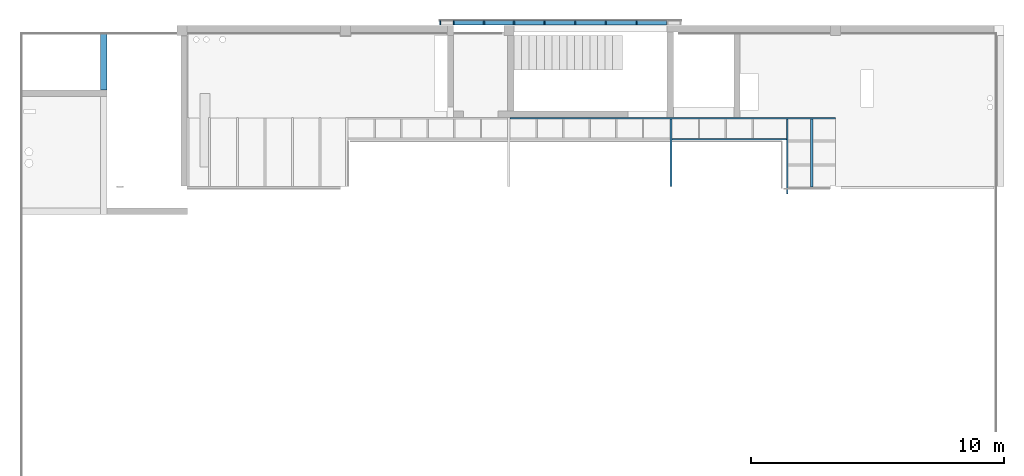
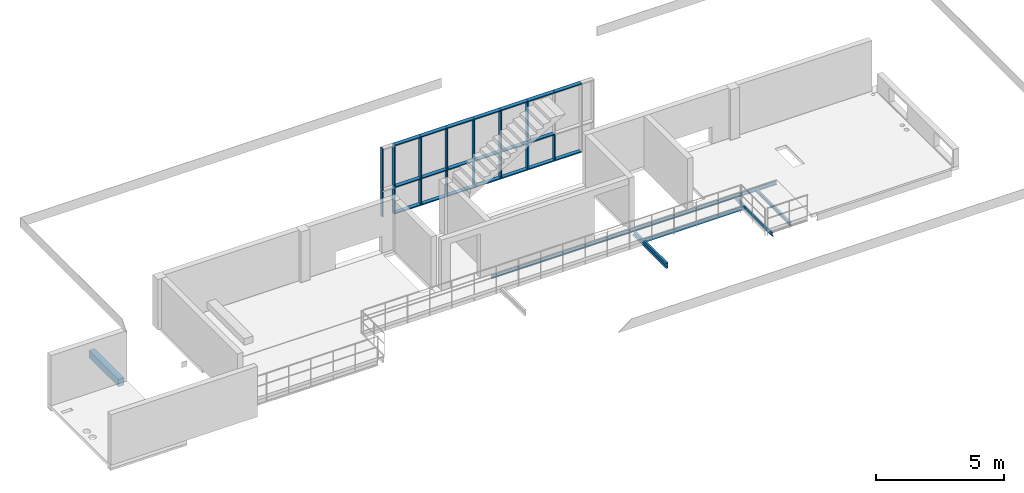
# One storey, part 2 of 8: 35 members, 6 beams, 1 element without a shape of its own.
"""IFC2X3 building model written with IfcOpenShell, lengths in centimetres."""

from ifc_helpers import new_model, entity, si_unit, converted_unit, derived_unit, direction, frame, frame_2d, origin, origin_2d_with_axis, place, context, subcontext, project, spatial, polyline, circle_curve, parameter, trimmed, segment, composite_curve, rectangle, i_section, outline, extrude, source, transform, mapped, material, type_object, type_shapes, element, aggregate, save


model = new_model("IFC2X3")

# Units and contexts
model_context = context("Model", 3, precision=0.001, world=origin(), true_north=direction((6.12303176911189e-17, 1.0)))
body_context = subcontext(model_context, "Body", "Model", "MODEL_VIEW")
ifc_project = project(units=[si_unit("LENGTHUNIT", "METRE", prefix="CENTI"), si_unit("AREAUNIT", "SQUARE_METRE"), si_unit("VOLUMEUNIT", "CUBIC_METRE"), converted_unit("PLANEANGLEUNIT", "DEGREE", entity("IfcRatioMeasure", 0.0174532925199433), si_unit("PLANEANGLEUNIT", "RADIAN"), dimensions=[0, 0, 0, 0, 0, 0, 0]), si_unit("MASSUNIT", "GRAM", prefix="KILO"), derived_unit("MASSDENSITYUNIT", [(si_unit("MASSUNIT", "GRAM", prefix="KILO"), 1), (si_unit("LENGTHUNIT", "METRE"), -3)]), derived_unit("MOMENTOFINERTIAUNIT", [(si_unit("LENGTHUNIT", "METRE"), 4)]), si_unit("TIMEUNIT", "SECOND"), si_unit("FREQUENCYUNIT", "HERTZ"), si_unit("THERMODYNAMICTEMPERATUREUNIT", "DEGREE_CELSIUS"), derived_unit("THERMALTRANSMITTANCEUNIT", [(si_unit("MASSUNIT", "GRAM", prefix="KILO"), 1), (si_unit("THERMODYNAMICTEMPERATUREUNIT", "KELVIN"), -1), (si_unit("TIMEUNIT", "SECOND"), -3)]), derived_unit("VOLUMETRICFLOWRATEUNIT", [(si_unit("LENGTHUNIT", "METRE"), 3), (si_unit("TIMEUNIT", "SECOND"), -1)]), si_unit("ELECTRICCURRENTUNIT", "AMPERE"), si_unit("ELECTRICVOLTAGEUNIT", "VOLT"), si_unit("POWERUNIT", "WATT"), si_unit("FORCEUNIT", "NEWTON", prefix="KILO"), si_unit("ILLUMINANCEUNIT", "LUX"), si_unit("LUMINOUSFLUXUNIT", "LUMEN"), si_unit("LUMINOUSINTENSITYUNIT", "CANDELA"), derived_unit("USERDEFINED", [(si_unit("MASSUNIT", "GRAM", prefix="KILO"), -1), (si_unit("LENGTHUNIT", "METRE"), -2), (si_unit("TIMEUNIT", "SECOND"), 3), (si_unit("LUMINOUSFLUXUNIT", "LUMEN"), 1)]), derived_unit("LINEARVELOCITYUNIT", [(si_unit("LENGTHUNIT", "METRE"), 1), (si_unit("TIMEUNIT", "SECOND"), -1)]), si_unit("PRESSUREUNIT", "PASCAL"), derived_unit("USERDEFINED", [(si_unit("LENGTHUNIT", "METRE"), -2), (si_unit("MASSUNIT", "GRAM", prefix="KILO"), 1), (si_unit("TIMEUNIT", "SECOND"), -2)]), derived_unit("LINEARFORCEUNIT", [(si_unit("MASSUNIT", "GRAM", prefix="KILO"), 1), (si_unit("LENGTHUNIT", "METRE"), 1), (si_unit("TIMEUNIT", "SECOND"), -2), (si_unit("LENGTHUNIT", "METRE"), -1)]), derived_unit("PLANARFORCEUNIT", [(si_unit("MASSUNIT", "GRAM", prefix="KILO"), 1), (si_unit("LENGTHUNIT", "METRE"), 1), (si_unit("TIMEUNIT", "SECOND"), -2), (si_unit("LENGTHUNIT", "METRE"), -2)])], contexts=[model_context])

# Site, building, storey
site_placement = place(None, origin())
site = spatial("IfcSite", under=ifc_project, at=site_placement, Name="Default", CompositionType="ELEMENT")
building_placement = place(site_placement, origin())
building = spatial("IfcBuilding", under=site, at=building_placement, CompositionType="ELEMENT")
storey_placement = place(building_placement, frame((0.0, 0.0, 290.0)))
storey = spatial("IfcBuildingStorey", under=building, at=storey_placement, Name="Poziom Antresola +2,90", CompositionType="ELEMENT", Elevation=290.0)

# Beams
ifc_material_1 = material(Name="_Beton C30/37")
beam_type_1 = type_object("IfcBeamType", Name="Beton-belka prostokątna:BELKA ŻELBETOWA 35x25", PredefinedType="NOTDEFINED")
beam_1_placement = place(storey_placement, frame((-2578.26511650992, 2092.62745206, -35.0), z_axis=(0.0, 0.0, 1.0), x_axis=(0.0, -1.0, 0.0)))
element("IfcBeam", 1, at=beam_1_placement, inside=storey, type_object=beam_type_1, material=ifc_material_1, Name="Beton-belka prostokątna:BELKA ŻELBETOWA 35x25", ObjectType="Beton-belka prostokątna:BELKA ŻELBETOWA 35x25", context=body_context, shape_type="SweptSolid", body=[
    extrude(rectangle(XDim=35.0, YDim=25.0000000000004, at=frame_2d((2.66453525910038e-14, 0.0), x_axis=(1.0, 0.0))), frame((12.4999999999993, 0.0, 17.4999999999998), z_axis=(1.0, 0.0, 0.0), x_axis=(0.0, 0.0, -1.0)), (0.0, 0.0, 1.0), 229.955921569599),
])
ifc_material_2 = material(Name="Stal konstrukcyjna - S235")
beam_type_2 = type_object("IfcBeamType", Name="C:C260", PredefinedType="NOTDEFINED")
beam_2_placement = place(storey_placement, frame((-336.625137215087, 1731.22770011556, 0.0), z_axis=(0.0, 0.0, 1.0), x_axis=(0.0, -1.0, 0.0)))
element("IfcBeam", 2, at=beam_2_placement, inside=storey, type_object=beam_type_2, material=ifc_material_2, Name="C:C260", ObjectType="C:C260", context=body_context, shape_type="SweptSolid", body=[
    extrude(outline(composite_curve([segment(polyline([(12.6059708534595, -4.05929565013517), (13.0, -4.05929565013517)]), True, "CONTINUOUS"), segment(polyline([(13.0, -4.05929565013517), (13.0, 4.94070434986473)]), True, "CONTINUOUS"), segment(polyline([(13.0, 4.94070434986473), (-13.0, 4.94070434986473)]), True, "CONTINUOUS"), segment(polyline([(-13.0, 4.94070434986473), (-13.0, -4.05929565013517)]), True, "CONTINUOUS"), segment(polyline([(-13.0, -4.05929565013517), (-12.6059708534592, -4.05929565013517)]), True, "CONTINUOUS"), segment(trimmed(circle_curve(frame_2d((-12.6059708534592, -3.35929565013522), x_axis=(0.0, -1.0)), 0.699999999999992), [parameter(0.0)], [parameter(85.4300000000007)], True, "PARAMETER"), True, "CONTINUOUS"), segment(polyline([(-11.9081963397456, -3.41506955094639), (-11.4232284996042, 2.6522521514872)]), True, "CONTINUOUS"), segment(trimmed(circle_curve(frame_2d((-10.027679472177, 2.54070434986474), x_axis=(-0.996820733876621, 0.0796770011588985)), 1.39999999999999), [parameter(274.569999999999)], [parameter(0.0)], True, "PARAMETER"), False, "CONTINUOUS"), segment(polyline([(-10.027679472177, 3.94070434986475), (10.0276794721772, 3.94070434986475)]), True, "CONTINUOUS"), segment(trimmed(circle_curve(frame_2d((10.0276794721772, 2.54070434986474), x_axis=(0.0, 1.0)), 1.39999999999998), [parameter(274.569999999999)], [parameter(0.0)], True, "PARAMETER"), False, "CONTINUOUS"), segment(polyline([(11.4232284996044, 2.6522521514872), (11.9081963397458, -3.41506955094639)]), True, "CONTINUOUS"), segment(trimmed(circle_curve(frame_2d((12.6059708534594, -3.35929565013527), x_axis=(-0.996820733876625, -0.0796770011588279)), 0.69999999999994), [parameter(0.0)], [parameter(85.4300000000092)], True, "PARAMETER"), True, "CONTINUOUS")], self_intersect=False)), frame((-5.39975219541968, -2.58070434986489, -16.0), z_axis=(1.0, 0.0, 0.0), x_axis=(0.0, 0.0, -1.0)), (0.0, 0.0, 1.0), 266.500000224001),
])
beam_type_3 = type_object("IfcBeamType", Name="C:C160", PredefinedType="NOTDEFINED")
beam_3_placement = place(storey_placement, frame((-969.718663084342, 1741.28745231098, 0.0)))
element("IfcBeam", 3, at=beam_3_placement, inside=storey, type_object=beam_type_3, material=ifc_material_2, Name="C:C160", ObjectType="C:C160", context=body_context, shape_type="SweptSolid", body=[
    extrude(outline(composite_curve([segment(polyline([(7.71756820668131, -2.92330641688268), (8.0, -2.92330641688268)]), True, "CONTINUOUS"), segment(polyline([(8.0, -2.92330641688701), (8.0, 3.57669358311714)]), True, "CONTINUOUS"), segment(polyline([(8.0, 3.57669358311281), (-8.0, 3.57669358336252)]), True, "CONTINUOUS"), segment(polyline([(-8.0, 3.57669358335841), (-8.0, -2.9233064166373)]), True, "CONTINUOUS"), segment(polyline([(-8.0, -2.92330641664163), (-7.71756820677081, -2.92330641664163)]), True, "CONTINUOUS"), segment(trimmed(circle_curve(frame_2d((-7.71756820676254, -2.37330641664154), x_axis=(0.0, -1.0)), 0.550000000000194), [parameter(0.0)], [parameter(85.4299999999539)], True, "PARAMETER"), True, "CONTINUOUS"), segment(polyline([(-7.16931680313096, -2.41712876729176), (-6.82741276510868, 1.86035443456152)]), True, "CONTINUOUS"), segment(trimmed(circle_curve(frame_2d((-5.7807509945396, 1.77669358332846), x_axis=(-0.996820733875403, 0.079677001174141)), 1.04999999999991), [parameter(274.569999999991)], [parameter(0.0)], True, "PARAMETER"), False, "CONTINUOUS"), segment(polyline([(-5.78075099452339, 2.82669358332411), (5.7807509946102, 2.82669358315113)]), True, "CONTINUOUS"), segment(trimmed(circle_curve(frame_2d((5.78075099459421, 1.77669358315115), x_axis=(0.0, 1.0)), 1.04999999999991), [parameter(274.569999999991)], [parameter(0.0)], True, "PARAMETER"), False, "CONTINUOUS"), segment(polyline([(6.82741276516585, 1.86035443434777), (7.16931680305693, -2.41712876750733)]), True, "CONTINUOUS"), segment(trimmed(circle_curve(frame_2d((7.7175682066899, -2.37330641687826), x_axis=(-0.996820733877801, -0.0796770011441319)), 0.550000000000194), [parameter(0.0)], [parameter(85.4299999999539)], True, "PARAMETER"), True, "CONTINUOUS")], self_intersect=False)), frame((-5.04644353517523, -1.73669358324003, -11.0), z_axis=(1.0, 0.0, 0.0), x_axis=(0.0, 0.0, -1.0)), (0.0, 0.0, 1.0), 1285.49999762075),
])
beam_4_placement = place(storey_placement, frame((90.7348789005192, 1654.96745293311, 0.0), z_axis=(0.0, 0.0, 1.0), x_axis=(-1.0, 0.0, 0.0)))
element("IfcBeam", 4, at=beam_4_placement, inside=storey, type_object=beam_type_3, material=ifc_material_2, Name="C:C160", ObjectType="C:C160", context=body_context, shape_type="SweptSolid", body=[
    extrude(outline(composite_curve([segment(polyline([(7.71756820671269, -2.92330641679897), (8.0, -2.92330641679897)]), True, "CONTINUOUS"), segment(polyline([(8.0, -2.92330641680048), (8.0, 3.57669358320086)]), True, "CONTINUOUS"), segment(polyline([(8.0, 3.57669358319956), (-8.0, 3.57669358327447)]), True, "CONTINUOUS"), segment(polyline([(-8.0, 3.57669358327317), (-8.0, -2.92330641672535)]), True, "CONTINUOUS"), segment(polyline([(-8.0, -2.92330641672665), (-7.71756820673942, -2.92330641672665)]), True, "CONTINUOUS"), segment(trimmed(circle_curve(frame_2d((-7.71756820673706, -2.37330641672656), x_axis=(0.0, -1.0)), 0.550000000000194), [parameter(0.0)], [parameter(85.4299999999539)], True, "PARAMETER"), True, "CONTINUOUS"), segment(polyline([(-7.16931680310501, -2.41712876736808), (-6.82741276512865, 1.86035443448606)]), True, "CONTINUOUS"), segment(trimmed(circle_curve(frame_2d((-5.78075099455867, 1.77669358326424), x_axis=(-0.996820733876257, 0.0796770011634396)), 1.04999999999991), [parameter(274.569999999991)], [parameter(0.0)], True, "PARAMETER"), False, "CONTINUOUS"), segment(polyline([(-5.78075099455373, 2.82669358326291), (5.78075099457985, 2.82669358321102)]), True, "CONTINUOUS"), segment(trimmed(circle_curve(frame_2d((5.78075099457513, 1.77669358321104), x_axis=(0.0, 1.0)), 1.04999999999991), [parameter(274.569999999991)], [parameter(0.0)], True, "PARAMETER"), False, "CONTINUOUS"), segment(polyline([(6.82741276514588, 1.86035443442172), (7.16931680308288, -2.41712876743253)]), True, "CONTINUOUS"), segment(trimmed(circle_curve(frame_2d((7.71756820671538, -2.37330641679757), x_axis=(-0.996820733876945, -0.0796770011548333)), 0.550000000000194), [parameter(0.0)], [parameter(85.4299999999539)], True, "PARAMETER"), True, "CONTINUOUS")], self_intersect=False)), frame((-26.0000160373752, -1.73669358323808, -11.0), z_axis=(1.0, 0.0, 0.0), x_axis=(0.0, 0.0, -1.0)), (0.0, 0.0, 1.0), 451.000024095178),
])
beam_5_placement = place(storey_placement, frame((118.574894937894, 1450.12745207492, 0.0), z_axis=(0.0, 0.0, 1.0), x_axis=(0.0, 1.0, 0.0)))
element("IfcBeam", 5, at=beam_5_placement, inside=storey, type_object=beam_type_3, material=ifc_material_2, Name="C:C160", ObjectType="C:C160", context=body_context, shape_type="SweptSolid", body=[
    extrude(outline(composite_curve([segment(polyline([(7.71756820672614, -2.92330641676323), (8.0, -2.92330641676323)]), True, "CONTINUOUS"), segment(polyline([(8.0, -2.9233064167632), (8.0, 3.57669358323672)]), True, "CONTINUOUS"), segment(polyline([(8.0, 3.57669358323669), (-8.0, 3.5766935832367)]), True, "CONTINUOUS"), segment(polyline([(-8.0, 3.57669358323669), (-8.0, -2.92330641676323)]), True, "CONTINUOUS"), segment(polyline([(-8.0, -2.92330641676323), (-7.71756820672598, -2.92330641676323)]), True, "CONTINUOUS"), segment(trimmed(circle_curve(frame_2d((-7.71756820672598, -2.37330641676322), x_axis=(0.0, -1.0)), 0.549999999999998), [parameter(0.0)], [parameter(85.4300000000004)], True, "PARAMETER"), True, "CONTINUOUS"), segment(polyline([(-7.16931680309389, -2.41712876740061), (-6.82741276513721, 1.86035443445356)]), True, "CONTINUOUS"), segment(trimmed(circle_curve(frame_2d((-5.78075099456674, 1.77669358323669), x_axis=(-0.99682073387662, 0.0796770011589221)), 1.05000000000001), [parameter(274.570000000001)], [parameter(0.0)], True, "PARAMETER"), False, "CONTINUOUS"), segment(polyline([(-5.78075099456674, 2.82669358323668), (5.78075099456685, 2.8266935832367)]), True, "CONTINUOUS"), segment(trimmed(circle_curve(frame_2d((5.78075099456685, 1.77669358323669), x_axis=(0.0, 1.0)), 1.05000000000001), [parameter(274.570000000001)], [parameter(0.0)], True, "PARAMETER"), False, "CONTINUOUS"), segment(polyline([(6.82741276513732, 1.86035443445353), (7.169316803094, -2.41712876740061)]), True, "CONTINUOUS"), segment(trimmed(circle_curve(frame_2d((7.71756820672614, -2.37330641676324), x_axis=(-0.996820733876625, -0.0796770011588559)), 0.549999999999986), [parameter(0.0)], [parameter(85.4300000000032)], True, "PARAMETER"), True, "CONTINUOUS")], self_intersect=False)), frame((-10.0099998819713, -1.73669358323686, -11.0), z_axis=(1.0, 0.0, 0.0), x_axis=(0.0, 0.0, -1.0)), (0.0, 0.0, 1.0), 296.51),
])
beam_type_4 = type_object("IfcBeamType", Name="IPE:IPE160", PredefinedType="NOTDEFINED")
beam_6_placement = place(storey_placement, frame((216.734886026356, 1411.28745211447, 0.0), z_axis=(0.0, 0.0, 1.0), x_axis=(0.0, 1.0, 0.0)))
element("IfcBeam", 6, at=beam_6_placement, inside=storey, type_object=beam_type_4, material=ifc_material_2, Name="IPE:IPE160", ObjectType="IPE:IPE160", context=body_context, shape_type="SweptSolid", body=[
    extrude(i_section(OverallWidth=8.2, OverallDepth=16.0, WebThickness=0.499999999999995, FlangeThickness=0.740000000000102, FilletRadius=0.900000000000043, at=frame_2d((8.12683254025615e-14, -5.41788836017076e-14), x_axis=(0.0, 1.0))), frame((55.8400000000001, 0.0, -11.0), z_axis=(1.0, 0.0, 0.0), x_axis=(0.0, 0.0, -1.0)), (0.0, 0.0, 1.0), 268.589999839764),
])

# Curtain wall, members
curtain_wall_type = type_object("IfcCurtainWallType", Name="Ściana osłonowa:SO2", PredefinedType="NOTDEFINED")
curtain_wall_placement = place(storey_placement, frame((0.0, 0.0, -290.0)))
curtain_wall = element("IfcCurtainWall", 7, at=curtain_wall_placement, inside=storey, type_object=curtain_wall_type, Name="Ściana osłonowa:SO2", ObjectType="Ściana osłonowa:SO2")
ifc_material_3 = material(Name="Aluminium")
member_type_1 = type_object("IfcMemberType", Name="Prostokątny szpros:50 x 175mm", PredefinedType="MULLION", material=ifc_material_3)
shared_shape_1 = source(origin(), body_context, "Body", "SweptSolid", [
    extrude(rectangle(XDim=17.5, YDim=5.0, at=origin_2d_with_axis()), frame((-2.5, 0.0, -198.500011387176), z_axis=(0.0, 0.0, 1.0), x_axis=(0.0, -1.0, 0.0)), (0.0, 0.0, 1.0), 198.500011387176),
])
type_shapes(member_type_1, [shared_shape_1])
member_1_placement = place(curtain_wall_placement, frame((-1252.7651152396, 2116.37745208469, 761.0), z_axis=(0.0, 0.0, 1.0), x_axis=(-1.0, 0.0, 0.0)))
member_1 = element("IfcMember", 8, at=member_1_placement, type_object=member_type_1, Name="Prostokątny szpros:50 x 175mm", ObjectType="Prostokątny szpros:50 x 175mm", context=body_context, shape_type="MappedRepresentation", body=[
    mapped(shared_shape_1, transform((0.0, 0.0, 0.0), scale=1.0)),
])
member_type_2 = type_object("IfcMemberType", Name="Prostokątny szpros:50 x 175mm", PredefinedType="MULLION", material=ifc_material_3)
shared_shape_2 = source(origin(), body_context, "Body", "SweptSolid", [
    extrude(rectangle(XDim=17.5, YDim=5.0, at=origin_2d_with_axis()), frame((-2.5, 0.0, -121.0), z_axis=(0.0, 0.0, 1.0), x_axis=(0.0, -1.0, 0.0)), (0.0, 0.0, 1.0), 121.0),
])
type_shapes(member_type_2, [shared_shape_2])
member_2_placement = place(curtain_wall_placement, frame((-354.265132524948, 2116.37745208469, 761.0), z_axis=(1.0, 0.0, 0.0), x_axis=(0.0, 0.0, 1.0)))
member_2 = element("IfcMember", 9, at=member_2_placement, type_object=member_type_2, Name="Prostokątny szpros:50 x 175mm", ObjectType="Prostokątny szpros:50 x 175mm", context=body_context, shape_type="MappedRepresentation", body=[
    mapped(shared_shape_2, transform((0.0, 0.0, 0.0), scale=1.0)),
])
member_3_placement = place(curtain_wall_placement, frame((-475.265132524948, 2116.37745208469, 761.0), z_axis=(1.0, 0.0, 0.0), x_axis=(0.0, 0.0, 1.0)))
member_3 = element("IfcMember", 10, at=member_3_placement, type_object=member_type_2, Name="Prostokątny szpros:50 x 175mm", ObjectType="Prostokątny szpros:50 x 175mm", context=body_context, shape_type="MappedRepresentation", body=[
    mapped(shared_shape_2, transform((0.0, 0.0, 0.0), scale=1.0)),
])
member_4_placement = place(curtain_wall_placement, frame((-596.265132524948, 2116.37745208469, 761.0), z_axis=(1.0, 0.0, 0.0), x_axis=(0.0, 0.0, 1.0)))
member_4 = element("IfcMember", 11, at=member_4_placement, type_object=member_type_2, Name="Prostokątny szpros:50 x 175mm", ObjectType="Prostokątny szpros:50 x 175mm", context=body_context, shape_type="MappedRepresentation", body=[
    mapped(shared_shape_2, transform((0.0, 0.0, 0.0), scale=1.0)),
])
member_5_placement = place(curtain_wall_placement, frame((-717.265132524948, 2116.37745208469, 761.0), z_axis=(1.0, 0.0, 0.0), x_axis=(0.0, 0.0, 1.0)))
member_5 = element("IfcMember", 12, at=member_5_placement, type_object=member_type_2, Name="Prostokątny szpros:50 x 175mm", ObjectType="Prostokątny szpros:50 x 175mm", context=body_context, shape_type="MappedRepresentation", body=[
    mapped(shared_shape_2, transform((0.0, 0.0, 0.0), scale=1.0)),
])
member_6_placement = place(curtain_wall_placement, frame((-838.265132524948, 2116.37745208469, 761.0), z_axis=(1.0, 0.0, 0.0), x_axis=(0.0, 0.0, 1.0)))
member_6 = element("IfcMember", 13, at=member_6_placement, type_object=member_type_2, Name="Prostokątny szpros:50 x 175mm", ObjectType="Prostokątny szpros:50 x 175mm", context=body_context, shape_type="MappedRepresentation", body=[
    mapped(shared_shape_2, transform((0.0, 0.0, 0.0), scale=1.0)),
])
member_type_3 = type_object("IfcMemberType", Name="Prostokątny szpros:50 x 175mm", PredefinedType="MULLION", material=ifc_material_3)
shared_shape_3 = source(origin(), body_context, "Body", "SweptSolid", [
    extrude(rectangle(XDim=17.5, YDim=5.0, at=origin_2d_with_axis()), frame((0.0, 0.0, -125.0), z_axis=(0.0, 0.0, 1.0), x_axis=(0.0, -1.0, 0.0)), (0.0, 0.0, 1.0), 125.0),
])
type_shapes(member_type_3, [shared_shape_3])
member_7_placement = place(curtain_wall_placement, frame((-475.265132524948, 2116.37745208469, 432.499988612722), z_axis=(0.0, 0.0, -1.0), x_axis=(1.0, 0.0, 0.0)))
member_7 = element("IfcMember", 14, at=member_7_placement, type_object=member_type_3, Name="Prostokątny szpros:50 x 175mm", ObjectType="Prostokątny szpros:50 x 175mm", context=body_context, shape_type="MappedRepresentation", body=[
    mapped(shared_shape_3, transform((0.0, 0.0, 0.0), scale=1.0)),
])
member_8_placement = place(curtain_wall_placement, frame((-596.265132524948, 2116.37745208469, 432.499988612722), z_axis=(0.0, 0.0, -1.0), x_axis=(1.0, 0.0, 0.0)))
member_8 = element("IfcMember", 15, at=member_8_placement, type_object=member_type_3, Name="Prostokątny szpros:50 x 175mm", ObjectType="Prostokątny szpros:50 x 175mm", context=body_context, shape_type="MappedRepresentation", body=[
    mapped(shared_shape_3, transform((0.0, 0.0, 0.0), scale=1.0)),
])
member_9_placement = place(curtain_wall_placement, frame((-717.265132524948, 2116.37745208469, 432.499988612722), z_axis=(0.0, 0.0, -1.0), x_axis=(1.0, 0.0, 0.0)))
member_9 = element("IfcMember", 16, at=member_9_placement, type_object=member_type_3, Name="Prostokątny szpros:50 x 175mm", ObjectType="Prostokątny szpros:50 x 175mm", context=body_context, shape_type="MappedRepresentation", body=[
    mapped(shared_shape_3, transform((0.0, 0.0, 0.0), scale=1.0)),
])
member_10_placement = place(curtain_wall_placement, frame((-838.265132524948, 2116.37745208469, 432.499988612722), z_axis=(0.0, 0.0, -1.0), x_axis=(1.0, 0.0, 0.0)))
member_10 = element("IfcMember", 17, at=member_10_placement, type_object=member_type_3, Name="Prostokątny szpros:50 x 175mm", ObjectType="Prostokątny szpros:50 x 175mm", context=body_context, shape_type="MappedRepresentation", body=[
    mapped(shared_shape_3, transform((0.0, 0.0, 0.0), scale=1.0)),
])
member_11_placement = place(curtain_wall_placement, frame((-959.265132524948, 2116.37745208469, 432.499988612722), z_axis=(0.0, 0.0, -1.0), x_axis=(1.0, 0.0, 0.0)))
member_11 = element("IfcMember", 18, at=member_11_placement, type_object=member_type_3, Name="Prostokątny szpros:50 x 175mm", ObjectType="Prostokątny szpros:50 x 175mm", context=body_context, shape_type="MappedRepresentation", body=[
    mapped(shared_shape_3, transform((0.0, 0.0, 0.0), scale=1.0)),
])
member_12_placement = place(curtain_wall_placement, frame((-1077.7651152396, 2116.37745208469, 432.499988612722), z_axis=(0.0, 0.0, -1.0), x_axis=(1.0, 0.0, 0.0)))
member_12 = element("IfcMember", 19, at=member_12_placement, type_object=member_type_3, Name="Prostokątny szpros:50 x 175mm", ObjectType="Prostokątny szpros:50 x 175mm", context=body_context, shape_type="MappedRepresentation", body=[
    mapped(shared_shape_3, transform((0.0, 0.0, 0.0), scale=1.0)),
])
member_13_placement = place(curtain_wall_placement, frame((-1196.7651152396, 2116.37745208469, 432.499988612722), z_axis=(0.0, 0.0, -1.0), x_axis=(1.0, 0.0, 0.0)))
member_13 = element("IfcMember", 20, at=member_13_placement, type_object=member_type_3, Name="Prostokątny szpros:50 x 175mm", ObjectType="Prostokątny szpros:50 x 175mm", context=body_context, shape_type="MappedRepresentation", body=[
    mapped(shared_shape_3, transform((0.0, 0.0, 0.0), scale=1.0)),
])
member_type_4 = type_object("IfcMemberType", Name="Prostokątny szpros:50 x 175mm", PredefinedType="MULLION", material=ifc_material_3)
shared_shape_4 = source(origin(), body_context, "Body", "SweptSolid", [
    extrude(rectangle(XDim=17.5, YDim=5.0, at=origin_2d_with_axis()), frame((-2.5, 0.0, -116.0), z_axis=(0.0, 0.0, 1.0), x_axis=(0.0, -1.0, 0.0)), (0.0, 0.0, 1.0), 116.0),
])
type_shapes(member_type_4, [shared_shape_4])
member_14_placement = place(curtain_wall_placement, frame((-472.765132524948, 2116.37745208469, 432.499988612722), z_axis=(-1.0, 0.0, 0.0), x_axis=(0.0, 0.0, -1.0)))
member_14 = element("IfcMember", 21, at=member_14_placement, type_object=member_type_4, Name="Prostokątny szpros:50 x 175mm", ObjectType="Prostokątny szpros:50 x 175mm", context=body_context, shape_type="MappedRepresentation", body=[
    mapped(shared_shape_4, transform((0.0, 0.0, 0.0), scale=1.0)),
])
member_15_placement = place(curtain_wall_placement, frame((-593.765132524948, 2116.37745208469, 432.499988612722), z_axis=(-1.0, 0.0, 0.0), x_axis=(0.0, 0.0, -1.0)))
member_15 = element("IfcMember", 22, at=member_15_placement, type_object=member_type_4, Name="Prostokątny szpros:50 x 175mm", ObjectType="Prostokątny szpros:50 x 175mm", context=body_context, shape_type="MappedRepresentation", body=[
    mapped(shared_shape_4, transform((0.0, 0.0, 0.0), scale=1.0)),
])
member_16_placement = place(curtain_wall_placement, frame((-714.765132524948, 2116.37745208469, 432.499988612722), z_axis=(-1.0, 0.0, 0.0), x_axis=(0.0, 0.0, -1.0)))
member_16 = element("IfcMember", 23, at=member_16_placement, type_object=member_type_4, Name="Prostokątny szpros:50 x 175mm", ObjectType="Prostokątny szpros:50 x 175mm", context=body_context, shape_type="MappedRepresentation", body=[
    mapped(shared_shape_4, transform((0.0, 0.0, 0.0), scale=1.0)),
])
member_17_placement = place(curtain_wall_placement, frame((-835.765132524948, 2116.37745208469, 432.499988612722), z_axis=(-1.0, 0.0, 0.0), x_axis=(0.0, 0.0, -1.0)))
member_17 = element("IfcMember", 24, at=member_17_placement, type_object=member_type_4, Name="Prostokątny szpros:50 x 175mm", ObjectType="Prostokątny szpros:50 x 175mm", context=body_context, shape_type="MappedRepresentation", body=[
    mapped(shared_shape_4, transform((0.0, 0.0, 0.0), scale=1.0)),
])
member_18_placement = place(curtain_wall_placement, frame((-956.765132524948, 2116.37745208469, 432.499988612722), z_axis=(-1.0, 0.0, 0.0), x_axis=(0.0, 0.0, -1.0)))
member_18 = element("IfcMember", 25, at=member_18_placement, type_object=member_type_4, Name="Prostokątny szpros:50 x 175mm", ObjectType="Prostokątny szpros:50 x 175mm", context=body_context, shape_type="MappedRepresentation", body=[
    mapped(shared_shape_4, transform((0.0, 0.0, 0.0), scale=1.0)),
])
member_type_5 = type_object("IfcMemberType", Name="Prostokątny szpros:50 x 175mm", PredefinedType="MULLION", material=ifc_material_3)
shared_shape_5 = source(origin(), body_context, "Body", "SweptSolid", [
    extrude(rectangle(XDim=17.5, YDim=5.0, at=origin_2d_with_axis()), frame((-2.5, 0.0, -118.499982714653), z_axis=(0.0, 0.0, 1.0), x_axis=(0.0, -1.0, 0.0)), (0.0, 0.0, 1.0), 118.499982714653),
])
type_shapes(member_type_5, [shared_shape_5])
member_19_placement = place(curtain_wall_placement, frame((-959.265132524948, 2116.37745208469, 761.0), z_axis=(1.0, 0.0, 0.0), x_axis=(0.0, 0.0, 1.0)))
member_19 = element("IfcMember", 26, at=member_19_placement, type_object=member_type_5, Name="Prostokątny szpros:50 x 175mm", ObjectType="Prostokątny szpros:50 x 175mm", context=body_context, shape_type="MappedRepresentation", body=[
    mapped(shared_shape_5, transform((0.0, 0.0, 0.0), scale=1.0)),
])
member_type_6 = type_object("IfcMemberType", Name="Prostokątny szpros:50 x 175mm", PredefinedType="MULLION", material=ifc_material_3)
shared_shape_6 = source(origin(), body_context, "Body", "SweptSolid", [
    extrude(rectangle(XDim=17.5, YDim=5.0, at=origin_2d_with_axis()), frame((-2.5, 0.0, -119.0), z_axis=(0.0, 0.0, 1.0), x_axis=(0.0, -1.0, 0.0)), (0.0, 0.0, 1.0), 119.0),
])
type_shapes(member_type_6, [shared_shape_6])
member_20_placement = place(curtain_wall_placement, frame((-1077.7651152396, 2116.37745208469, 761.0), z_axis=(1.0, 0.0, 0.0), x_axis=(0.0, 0.0, 1.0)))
member_20 = element("IfcMember", 27, at=member_20_placement, type_object=member_type_6, Name="Prostokątny szpros:50 x 175mm", ObjectType="Prostokątny szpros:50 x 175mm", context=body_context, shape_type="MappedRepresentation", body=[
    mapped(shared_shape_6, transform((0.0, 0.0, 0.0), scale=1.0)),
])
member_type_7 = type_object("IfcMemberType", Name="Prostokątny szpros:50 x 175mm", PredefinedType="MULLION", material=ifc_material_3)
shared_shape_7 = source(origin(), body_context, "Body", "SweptSolid", [
    extrude(rectangle(XDim=17.5, YDim=5.0, at=origin_2d_with_axis()), frame((-2.5, 0.0, -113.499982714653), z_axis=(0.0, 0.0, 1.0), x_axis=(0.0, -1.0, 0.0)), (0.0, 0.0, 1.0), 113.499982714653),
])
type_shapes(member_type_7, [shared_shape_7])
member_21_placement = place(curtain_wall_placement, frame((-1075.2651152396, 2116.37745208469, 432.499988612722), z_axis=(-1.0, 0.0, 0.0), x_axis=(0.0, 0.0, -1.0)))
member_21 = element("IfcMember", 28, at=member_21_placement, type_object=member_type_7, Name="Prostokątny szpros:50 x 175mm", ObjectType="Prostokątny szpros:50 x 175mm", context=body_context, shape_type="MappedRepresentation", body=[
    mapped(shared_shape_7, transform((0.0, 0.0, 0.0), scale=1.0)),
])
member_type_8 = type_object("IfcMemberType", Name="Prostokątny szpros:50 x 175mm", PredefinedType="MULLION", material=ifc_material_3)
shared_shape_8 = source(origin(), body_context, "Body", "SweptSolid", [
    extrude(rectangle(XDim=17.5, YDim=5.0, at=origin_2d_with_axis()), frame((-2.5, 0.0, -114.0), z_axis=(0.0, 0.0, 1.0), x_axis=(0.0, -1.0, 0.0)), (0.0, 0.0, 1.0), 114.0),
])
type_shapes(member_type_8, [shared_shape_8])
member_22_placement = place(curtain_wall_placement, frame((-1194.2651152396, 2116.37745208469, 432.499988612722), z_axis=(-1.0, 0.0, 0.0), x_axis=(0.0, 0.0, -1.0)))
member_22 = element("IfcMember", 29, at=member_22_placement, type_object=member_type_8, Name="Prostokątny szpros:50 x 175mm", ObjectType="Prostokątny szpros:50 x 175mm", context=body_context, shape_type="MappedRepresentation", body=[
    mapped(shared_shape_8, transform((0.0, 0.0, 0.0), scale=1.0)),
])
member_type_9 = type_object("IfcMemberType", Name="Prostokątny szpros:50 x 175mm", PredefinedType="MULLION", material=ifc_material_3)
shared_shape_9 = source(origin(), body_context, "Body", "SweptSolid", [
    extrude(rectangle(XDim=17.5, YDim=5.0, at=origin_2d_with_axis()), frame((-2.5, 0.0, -120.0), z_axis=(0.0, 0.0, 1.0), x_axis=(0.0, -1.0, 0.0)), (0.0, 0.0, 1.0), 120.0),
])
type_shapes(member_type_9, [shared_shape_9])
member_23_placement = place(curtain_wall_placement, frame((-1252.7651152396, 2116.37745208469, 557.499988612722), z_axis=(0.0, 0.0, 1.0), x_axis=(-1.0, 0.0, 0.0)))
member_23 = element("IfcMember", 30, at=member_23_placement, type_object=member_type_9, Name="Prostokątny szpros:50 x 175mm", ObjectType="Prostokątny szpros:50 x 175mm", context=body_context, shape_type="MappedRepresentation", body=[
    mapped(shared_shape_9, transform((0.0, 0.0, 0.0), scale=1.0)),
])
member_type_10 = type_object("IfcMemberType", Name="Prostokątny szpros:50 x 175mm", PredefinedType="MULLION", material=ifc_material_3)
shared_shape_10 = source(origin(), body_context, "Body", "SweptSolid", [
    extrude(rectangle(XDim=17.5, YDim=5.0, at=origin_2d_with_axis()), frame((0.0, 0.0, -119.0), z_axis=(0.0, 0.0, 1.0), x_axis=(0.0, -1.0, 0.0)), (0.0, 0.0, 1.0), 119.0),
])
type_shapes(member_type_10, [shared_shape_10])
member_24_placement = place(curtain_wall_placement, frame((-1077.7651152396, 2116.37745208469, 559.999988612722), z_axis=(1.0, 0.0, 0.0), x_axis=(0.0, 0.0, 1.0)))
member_24 = element("IfcMember", 31, at=member_24_placement, type_object=member_type_10, Name="Prostokątny szpros:50 x 175mm", ObjectType="Prostokątny szpros:50 x 175mm", context=body_context, shape_type="MappedRepresentation", body=[
    mapped(shared_shape_10, transform((0.0, 0.0, 0.0), scale=1.0)),
])
member_type_11 = type_object("IfcMemberType", Name="Prostokątny szpros:50 x 175mm", PredefinedType="MULLION", material=ifc_material_3)
shared_shape_11 = source(origin(), body_context, "Body", "SweptSolid", [
    extrude(rectangle(XDim=17.5, YDim=5.0, at=origin_2d_with_axis()), frame((0.0, 0.0, -118.499982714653), z_axis=(0.0, 0.0, 1.0), x_axis=(0.0, -1.0, 0.0)), (0.0, 0.0, 1.0), 118.499982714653),
])
type_shapes(member_type_11, [shared_shape_11])
member_25_placement = place(curtain_wall_placement, frame((-959.265132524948, 2116.37745208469, 559.999988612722), z_axis=(1.0, 0.0, 0.0), x_axis=(0.0, 0.0, 1.0)))
member_25 = element("IfcMember", 32, at=member_25_placement, type_object=member_type_11, Name="Prostokątny szpros:50 x 175mm", ObjectType="Prostokątny szpros:50 x 175mm", context=body_context, shape_type="MappedRepresentation", body=[
    mapped(shared_shape_11, transform((0.0, 0.0, 0.0), scale=1.0)),
])
member_type_12 = type_object("IfcMemberType", Name="Prostokątny szpros:50 x 175mm", PredefinedType="MULLION", material=ifc_material_3)
shared_shape_12 = source(origin(), body_context, "Body", "SweptSolid", [
    extrude(rectangle(XDim=17.5, YDim=5.0, at=origin_2d_with_axis()), frame((0.0, 0.0, -121.0), z_axis=(0.0, 0.0, 1.0), x_axis=(0.0, -1.0, 0.0)), (0.0, 0.0, 1.0), 121.0),
])
type_shapes(member_type_12, [shared_shape_12])
member_26_placement = place(curtain_wall_placement, frame((-838.265132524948, 2116.37745208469, 559.999988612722), z_axis=(1.0, 0.0, 0.0), x_axis=(0.0, 0.0, 1.0)))
member_26 = element("IfcMember", 33, at=member_26_placement, type_object=member_type_12, Name="Prostokątny szpros:50 x 175mm", ObjectType="Prostokątny szpros:50 x 175mm", context=body_context, shape_type="MappedRepresentation", body=[
    mapped(shared_shape_12, transform((0.0, 0.0, 0.0), scale=1.0)),
])
member_27_placement = place(curtain_wall_placement, frame((-717.265132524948, 2116.37745208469, 559.999988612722), z_axis=(1.0, 0.0, 0.0), x_axis=(0.0, 0.0, 1.0)))
member_27 = element("IfcMember", 34, at=member_27_placement, type_object=member_type_12, Name="Prostokątny szpros:50 x 175mm", ObjectType="Prostokątny szpros:50 x 175mm", context=body_context, shape_type="MappedRepresentation", body=[
    mapped(shared_shape_12, transform((0.0, 0.0, 0.0), scale=1.0)),
])
member_28_placement = place(curtain_wall_placement, frame((-596.265132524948, 2116.37745208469, 559.999988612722), z_axis=(1.0, 0.0, 0.0), x_axis=(0.0, 0.0, 1.0)))
member_28 = element("IfcMember", 35, at=member_28_placement, type_object=member_type_12, Name="Prostokątny szpros:50 x 175mm", ObjectType="Prostokątny szpros:50 x 175mm", context=body_context, shape_type="MappedRepresentation", body=[
    mapped(shared_shape_12, transform((0.0, 0.0, 0.0), scale=1.0)),
])
member_29_placement = place(curtain_wall_placement, frame((-475.265132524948, 2116.37745208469, 559.999988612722), z_axis=(1.0, 0.0, 0.0), x_axis=(0.0, 0.0, 1.0)))
member_29 = element("IfcMember", 36, at=member_29_placement, type_object=member_type_12, Name="Prostokątny szpros:50 x 175mm", ObjectType="Prostokątny szpros:50 x 175mm", context=body_context, shape_type="MappedRepresentation", body=[
    mapped(shared_shape_12, transform((0.0, 0.0, 0.0), scale=1.0)),
])
member_type_13 = type_object("IfcMemberType", Name="Prostokątny szpros:50 x 175mm", PredefinedType="MULLION", material=ifc_material_3)
shared_shape_13 = source(origin(), body_context, "Body", "SweptSolid", [
    extrude(rectangle(XDim=17.5, YDim=5.0, at=origin_2d_with_axis()), frame((0.0, 0.0, -193.500011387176), z_axis=(0.0, 0.0, 1.0), x_axis=(0.0, -1.0, 0.0)), (0.0, 0.0, 1.0), 193.500011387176),
])
type_shapes(member_type_13, [shared_shape_13])
member_30_placement = place(curtain_wall_placement, frame((-1196.7651152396, 2116.37745208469, 562.499988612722), z_axis=(0.0, 0.0, -1.0), x_axis=(1.0, 0.0, 0.0)))
member_30 = element("IfcMember", 37, at=member_30_placement, type_object=member_type_13, Name="Prostokątny szpros:50 x 175mm", ObjectType="Prostokątny szpros:50 x 175mm", context=body_context, shape_type="MappedRepresentation", body=[
    mapped(shared_shape_13, transform((0.0, 0.0, 0.0), scale=1.0)),
])
member_31_placement = place(curtain_wall_placement, frame((-1077.7651152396, 2116.37745208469, 562.499988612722), z_axis=(0.0, 0.0, -1.0), x_axis=(1.0, 0.0, 0.0)))
member_31 = element("IfcMember", 38, at=member_31_placement, type_object=member_type_13, Name="Prostokątny szpros:50 x 175mm", ObjectType="Prostokątny szpros:50 x 175mm", context=body_context, shape_type="MappedRepresentation", body=[
    mapped(shared_shape_13, transform((0.0, 0.0, 0.0), scale=1.0)),
])
member_32_placement = place(curtain_wall_placement, frame((-959.265132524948, 2116.37745208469, 562.499988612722), z_axis=(0.0, 0.0, -1.0), x_axis=(1.0, 0.0, 0.0)))
member_32 = element("IfcMember", 39, at=member_32_placement, type_object=member_type_13, Name="Prostokątny szpros:50 x 175mm", ObjectType="Prostokątny szpros:50 x 175mm", context=body_context, shape_type="MappedRepresentation", body=[
    mapped(shared_shape_13, transform((0.0, 0.0, 0.0), scale=1.0)),
])
member_33_placement = place(curtain_wall_placement, frame((-838.265132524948, 2116.37745208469, 562.499988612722), z_axis=(0.0, 0.0, -1.0), x_axis=(1.0, 0.0, 0.0)))
member_33 = element("IfcMember", 40, at=member_33_placement, type_object=member_type_13, Name="Prostokątny szpros:50 x 175mm", ObjectType="Prostokątny szpros:50 x 175mm", context=body_context, shape_type="MappedRepresentation", body=[
    mapped(shared_shape_13, transform((0.0, 0.0, 0.0), scale=1.0)),
])
member_34_placement = place(curtain_wall_placement, frame((-717.265132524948, 2116.37745208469, 562.499988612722), z_axis=(0.0, 0.0, -1.0), x_axis=(1.0, 0.0, 0.0)))
member_34 = element("IfcMember", 41, at=member_34_placement, type_object=member_type_13, Name="Prostokątny szpros:50 x 175mm", ObjectType="Prostokątny szpros:50 x 175mm", context=body_context, shape_type="MappedRepresentation", body=[
    mapped(shared_shape_13, transform((0.0, 0.0, 0.0), scale=1.0)),
])
member_35_placement = place(curtain_wall_placement, frame((-596.265132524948, 2116.37745208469, 562.499988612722), z_axis=(0.0, 0.0, -1.0), x_axis=(1.0, 0.0, 0.0)))
member_35 = element("IfcMember", 42, at=member_35_placement, type_object=member_type_13, Name="Prostokątny szpros:50 x 175mm", ObjectType="Prostokątny szpros:50 x 175mm", context=body_context, shape_type="MappedRepresentation", body=[
    mapped(shared_shape_13, transform((0.0, 0.0, 0.0), scale=1.0)),
])
aggregate(curtain_wall, [member_1, member_2, member_3, member_14, member_7, member_4, member_15, member_8, member_5, member_16, member_9, member_6, member_17, member_10, member_19, member_18, member_11, member_20, member_21, member_12, member_22, member_13, member_23, member_24, member_25, member_26, member_27, member_28, member_29, member_30, member_31, member_32, member_33, member_34, member_35])

save(model, "model.ifc")
